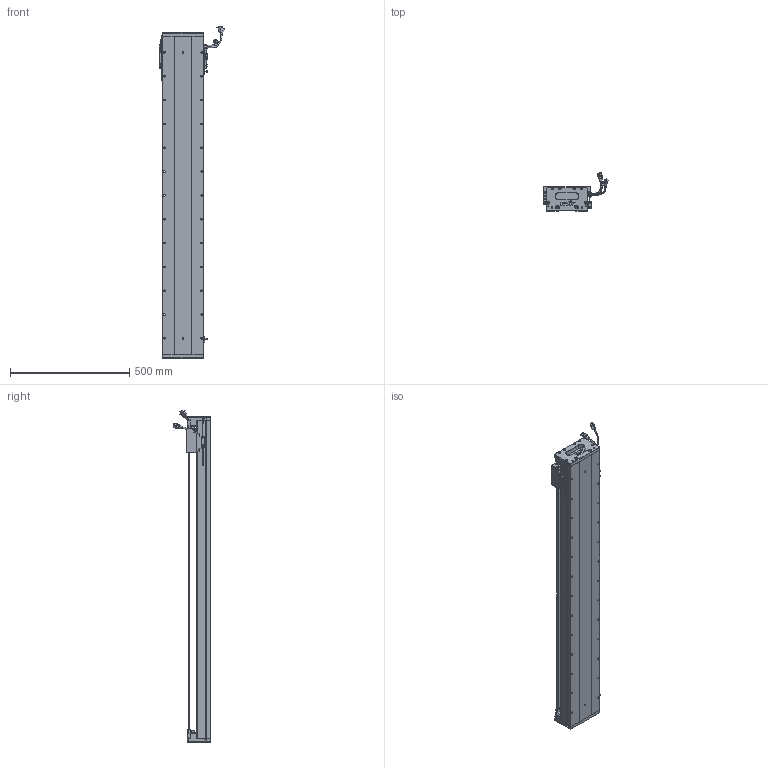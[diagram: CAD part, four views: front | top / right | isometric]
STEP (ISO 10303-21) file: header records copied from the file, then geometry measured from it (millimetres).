
FILE_DESCRIPTION (( 'STEP AP203' ), '1' );
FILE_NAME ('Z1-RY170D-1-L500-B-K.SLDASM_1150.step', '2021-05-17T08:52:34', ( '盈信电脑' ), ( '东莞市道滘镇水果街19号' ), 'SwSTEP 2.0', 'SolidWorks 2016', '' );
FILE_SCHEMA (( 'CONFIG_CONTROL_DESIGN' ));
Length unit declared in the file: millimetre
Products named in the file (36): SCREW-M1.7; COVER-Part-1; Z1-RY170-L500詩湍145mm遵_1150; HARNESS-Part-1; RY170直线电机感应器672光电感应片; 080黍杅芛假蚾釱21遴; 140雄赽晤鎢ん堤盄; Z-RY170詩湍狟揤裔; Z-RY170詩湍奻揤裔; PBU_SHEET; SHIELDPLATE; SEAL; HARNESS; 榋妏寠巭燃_暯_M2_2; SCREW-M1.6-2; Z-170詩湍傷裔啣; SCALE-Part-2; Z1-RY170D-1-L500-B-K.SLDASM_1150; HOLDER0; HARNESS-Part-2; SCALE; SCREW-M1.6-1; PSLH080_PSLF2; Z1-RY170臏賑輸(21遴); 覜茼ん672; 170-Z-臏賑輸盄裔(21遴); SCREW-M1.6-3; SCALE-Part-1; Z1-RY170-L500耀郪菁釱_1150; 140蚥薯蝶輸; LABEL; SCREW-M1.7-1; SCREW-M1.6; SEAL-Part-1; LABEL-Part-1; COVER
Assembly tree (41 placements, depth 4):
  Z1-RY170D-1-L500-B-K.SLDASM_1150
    Z1-RY170-L500耀郪菁釱_1150
    RY170直线电机感应器672光电感应片
    Z1-RY170臏賑輸(21遴)
    覜茼ん672  x3
    PSLH080_PSLF2
      SCALE
        SCALE-Part-1
        SCALE-Part-2
      HARNESS
        HARNESS-Part-1
        HARNESS-Part-2
      LABEL
        LABEL-Part-1
      COVER
        COVER-Part-1
      SEAL
        SEAL-Part-1
      榋妏寠巭燃_暯_M2_2
      SHIELDPLATE
      SCREW-M1.7
      SCREW-M1.7-1
      PBU_SHEET
      SCREW-M1.6
      SCREW-M1.6-1
      SCREW-M1.6-2
      SCREW-M1.6-3
      HOLDER0
    080黍杅芛假蚾釱21遴
    Z1-RY170-L500詩湍145mm遵_1150
    Z-170詩湍傷裔啣  x2
    Z-RY170詩湍奻揤裔  x2
    Z-RY170詩湍狟揤裔  x2
    140蚥薯蝶輸  x2
    170-Z-臏賑輸盄裔(21遴)
    140雄赽晤鎢ん堤盄
Bounding box: 275.34 x 158.11 x 1393.72 mm (x, y, z)
Volume: 7165220.6 mm3; surface area: 1781031.6 mm2
Topology: 36 solids, 36 shells, 3122 faces, 8425 edges, 5293 vertices
Faces by surface type: cylinder 1444, plane 1168, cone 388, torus 69, bspline 53
Entity records: 92785 total; most frequent: CARTESIAN_POINT 24262, ORIENTED_EDGE 13646, DIRECTION 13231, EDGE_CURVE 6823, AXIS2_PLACEMENT_3D 4828, VERTEX_POINT 4411, VECTOR 3575, LINE 3575
